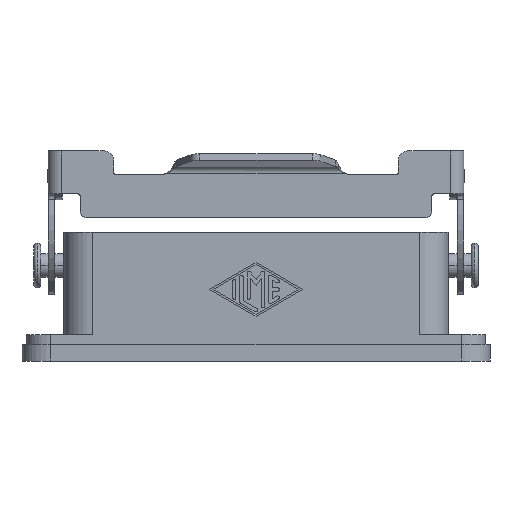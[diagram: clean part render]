
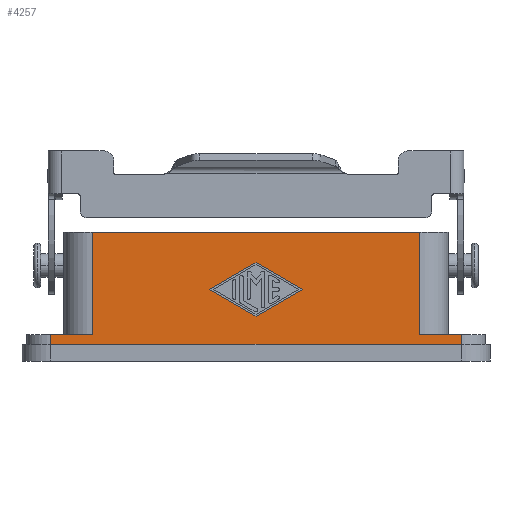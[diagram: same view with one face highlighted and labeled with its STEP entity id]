
A CAD part, front view. The second image highlights one B-rep face of the part: STEP entity #4257.
In plain terms, the highlighted planar face has unit normal (0, -1, 0).
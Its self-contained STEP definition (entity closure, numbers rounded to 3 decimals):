
#3415=CARTESIAN_POINT('',(13.565,88.447,-5.));
#3416=VERTEX_POINT('',#3415);
#3423=CARTESIAN_POINT('',(23.315,88.447,-10.625));
#3424=VERTEX_POINT('',#3423);
#3425=CARTESIAN_POINT('',(23.315,88.447,-10.625));
#3426=DIRECTION('',(-0.866,0.0,0.5));
#3427=VECTOR('',#3426,11.256);
#3428=LINE('',#3425,#3427);
#3429=EDGE_CURVE('',#3424,#3416,#3428,.T.);
#3454=CARTESIAN_POINT('',(33.065,88.447,-5.));
#3455=VERTEX_POINT('',#3454);
#3456=CARTESIAN_POINT('',(33.065,88.447,-5.));
#3457=DIRECTION('',(-0.866,0.,-0.5));
#3458=VECTOR('',#3457,11.256);
#3459=LINE('',#3456,#3458);
#3460=EDGE_CURVE('',#3455,#3424,#3459,.T.);
#3485=CARTESIAN_POINT('',(23.315,88.447,0.625));
#3486=VERTEX_POINT('',#3485);
#3487=CARTESIAN_POINT('',(23.315,88.447,0.625));
#3488=DIRECTION('',(0.866,0.0,-0.5));
#3489=VECTOR('',#3488,11.256);
#3490=LINE('',#3487,#3489);
#3491=EDGE_CURVE('',#3486,#3455,#3490,.T.);
#3514=CARTESIAN_POINT('',(13.565,88.447,-5.));
#3515=DIRECTION('',(0.866,0.,0.5));
#3516=VECTOR('',#3515,11.256);
#3517=LINE('',#3514,#3516);
#3518=EDGE_CURVE('',#3416,#3486,#3517,.T.);
#4180=CARTESIAN_POINT('',(66.315,88.447,-18.5));
#4181=DIRECTION('',(0.0,-1.0,0.0));
#4182=DIRECTION('',(0.0,0.0,-1.0));
#4183=AXIS2_PLACEMENT_3D('',#4180,#4181,#4182);
#4184=PLANE('',#4183);
#4185=CARTESIAN_POINT('',(-10.935,88.447,-14.5));
#4186=VERTEX_POINT('',#4185);
#4187=CARTESIAN_POINT('',(-19.685,88.447,-14.5));
#4188=VERTEX_POINT('',#4187);
#4189=CARTESIAN_POINT('',(-10.935,88.447,-14.5));
#4190=DIRECTION('',(-1.0,0.0,0.0));
#4191=VECTOR('',#4190,8.75);
#4192=LINE('',#4189,#4191);
#4193=EDGE_CURVE('',#4186,#4188,#4192,.T.);
#4194=ORIENTED_EDGE('',*,*,#4193,.T.);
#4195=CARTESIAN_POINT('',(-19.685,88.447,-18.5));
#4196=VERTEX_POINT('',#4195);
#4197=CARTESIAN_POINT('',(-19.685,88.447,-18.5));
#4198=DIRECTION('',(0.0,0.0,1.0));
#4199=VECTOR('',#4198,4.);
#4200=LINE('',#4197,#4199);
#4201=EDGE_CURVE('',#4196,#4188,#4200,.T.);
#4202=ORIENTED_EDGE('',*,*,#4201,.F.);
#4203=CARTESIAN_POINT('',(66.315,88.447,-18.5));
#4204=VERTEX_POINT('',#4203);
#4205=CARTESIAN_POINT('',(66.315,88.447,-18.5));
#4206=DIRECTION('',(-1.0,0.0,0.0));
#4207=VECTOR('',#4206,86.);
#4208=LINE('',#4205,#4207);
#4209=EDGE_CURVE('',#4204,#4196,#4208,.T.);
#4210=ORIENTED_EDGE('',*,*,#4209,.F.);
#4211=CARTESIAN_POINT('',(66.315,88.447,-14.5));
#4212=VERTEX_POINT('',#4211);
#4213=CARTESIAN_POINT('',(66.315,88.447,-18.5));
#4214=DIRECTION('',(0.0,0.0,1.0));
#4215=VECTOR('',#4214,4.);
#4216=LINE('',#4213,#4215);
#4217=EDGE_CURVE('',#4204,#4212,#4216,.T.);
#4218=ORIENTED_EDGE('',*,*,#4217,.T.);
#4219=CARTESIAN_POINT('',(57.565,88.447,-14.5));
#4220=VERTEX_POINT('',#4219);
#4221=CARTESIAN_POINT('',(66.315,88.447,-14.5));
#4222=DIRECTION('',(-1.0,0.0,0.0));
#4223=VECTOR('',#4222,8.75);
#4224=LINE('',#4221,#4223);
#4225=EDGE_CURVE('',#4212,#4220,#4224,.T.);
#4226=ORIENTED_EDGE('',*,*,#4225,.T.);
#4227=CARTESIAN_POINT('',(57.565,88.447,7.));
#4228=VERTEX_POINT('',#4227);
#4229=CARTESIAN_POINT('',(57.565,88.447,-14.5));
#4230=DIRECTION('',(0.0,0.0,1.0));
#4231=VECTOR('',#4230,21.5);
#4232=LINE('',#4229,#4231);
#4233=EDGE_CURVE('',#4220,#4228,#4232,.T.);
#4234=ORIENTED_EDGE('',*,*,#4233,.T.);
#4235=CARTESIAN_POINT('',(-10.935,88.447,7.));
#4236=VERTEX_POINT('',#4235);
#4237=CARTESIAN_POINT('',(57.565,88.447,7.));
#4238=DIRECTION('',(-1.0,0.0,0.0));
#4239=VECTOR('',#4238,68.5);
#4240=LINE('',#4237,#4239);
#4241=EDGE_CURVE('',#4228,#4236,#4240,.T.);
#4242=ORIENTED_EDGE('',*,*,#4241,.T.);
#4243=CARTESIAN_POINT('',(-10.935,88.447,-14.5));
#4244=DIRECTION('',(0.0,0.0,1.0));
#4245=VECTOR('',#4244,21.5);
#4246=LINE('',#4243,#4245);
#4247=EDGE_CURVE('',#4186,#4236,#4246,.T.);
#4248=ORIENTED_EDGE('',*,*,#4247,.F.);
#4249=EDGE_LOOP('',(#4194,#4202,#4210,#4218,#4226,#4234,#4242,#4248));
#4250=FACE_OUTER_BOUND('',#4249,.T.);
#4251=ORIENTED_EDGE('',*,*,#3429,.T.);
#4252=ORIENTED_EDGE('',*,*,#3518,.T.);
#4253=ORIENTED_EDGE('',*,*,#3491,.T.);
#4254=ORIENTED_EDGE('',*,*,#3460,.T.);
#4255=EDGE_LOOP('',(#4251,#4252,#4253,#4254));
#4256=FACE_BOUND('',#4255,.T.);
#4257=ADVANCED_FACE('',(#4250,#4256),#4184,.T.);
